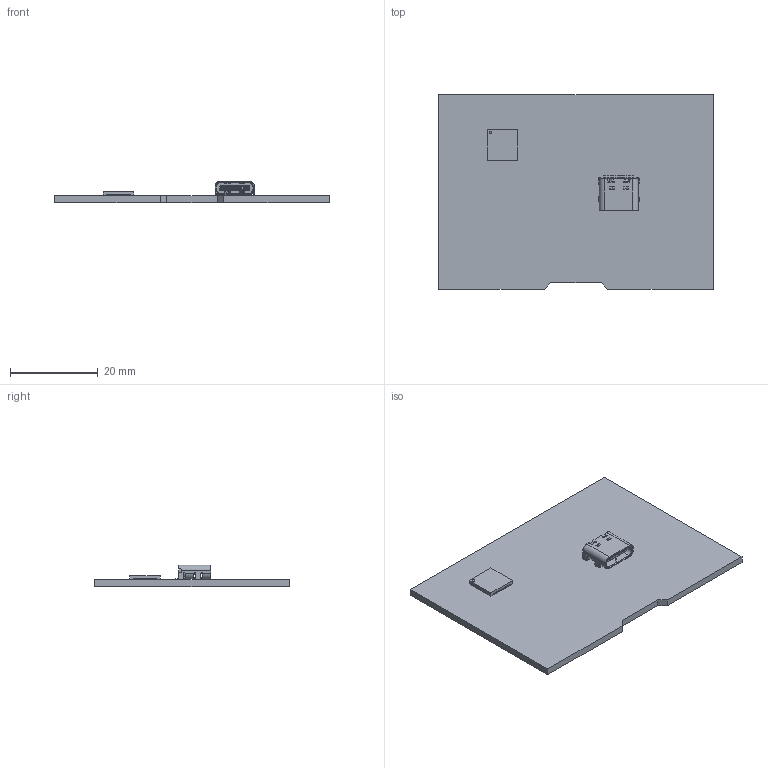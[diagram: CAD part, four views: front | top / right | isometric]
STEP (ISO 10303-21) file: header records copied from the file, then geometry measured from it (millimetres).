
FILE_DESCRIPTION(('KiCad electronic assembly'),'2;1');
FILE_NAME('1.step','2023-12-09T20:39:32',('Pcbnew'),('Kicad'), 'Open CASCADE STEP processor 7.7','KiCad to STEP converter','Unknown' );
FILE_SCHEMA(('AUTOMOTIVE_DESIGN { 1 0 10303 214 1 1 1 1 }'));
Length unit declared in the file: millimetre
Products named in the file (6): 1 1; TYPE-C-31-M-12; COMPOUND; QFN-56-1EP_7x7mm_P0.4mm_EP5.6x5.6mm; SOLID; _autosave-1 PCB
Assembly tree (5 placements, depth 3):
  1 1
    TYPE-C-31-M-12
      COMPOUND
    QFN-56-1EP_7x7mm_P0.4mm_EP5.6x5.6mm
      SOLID
    _autosave-1 PCB
Bounding box: 62.74 x 44.45 x 4.96 mm (x, y, z)
Volume: 4582.6 mm3; surface area: 6547.9 mm2
Topology: 44 solids, 44 shells, 1131 faces, 2979 edges, 1946 vertices
Faces by surface type: plane 932, cylinder 179, cone 20
Full cylindrical faces by diameter (mm): 0.5 x1, 0.6 x2
Entity records: 77300 total; most frequent: CARTESIAN_POINT 15160, DIRECTION 10948, LINE 7897, VECTOR 7897, ORIENTED_EDGE 5958, PCURVE 5958, DEFINITIONAL_REPRESENTATION 5958, EDGE_CURVE 2979
